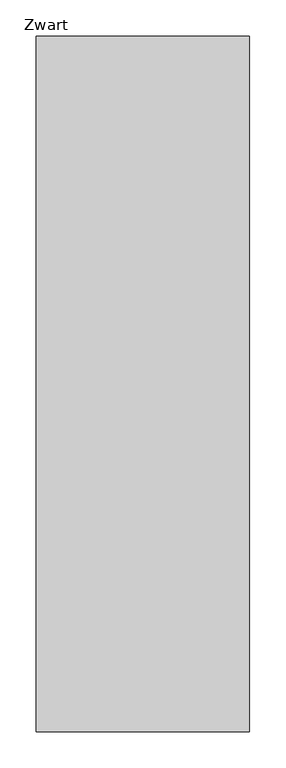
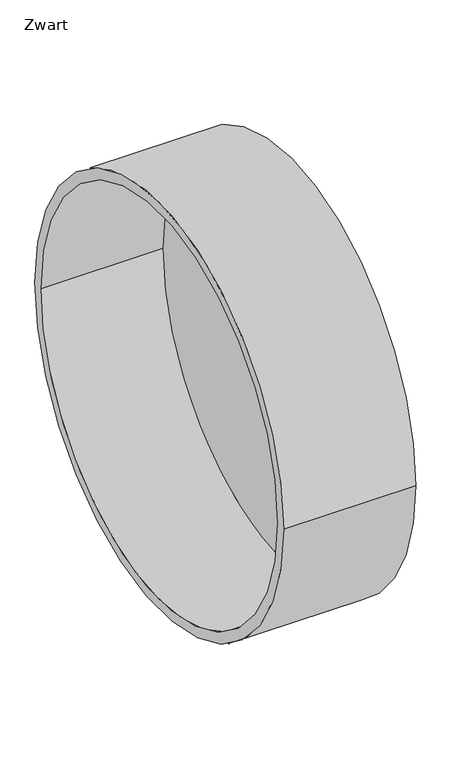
"""IFC4 building model written with IfcOpenShell, lengths in millimetres: pipe fitting geometry, NLRS_52_PIF_UN_Ultra Kyma afsluitkap LV_Dyka : Zwart."""

from ifc_helpers import new_model, si_unit, frame, origin, place, context, project, spatial, polyline, circle_curve, source, transform, mapped, element, save
from ifc_brep_helpers import plane_surface, cylinder_surface, revolved_surface, advanced_brep


def zwart_fea47d13(model_context):
    return source(origin(), model_context, "Body", "AdvancedBrep", [
        advanced_brep(
        [(0.0, -453.0, 0.0), (0.0, 453.0, 0.0), (-270.0, 453.0, 0.0), (-270.0, -453.0, 0.0), (23.0, -477.0, 0.0), (23.0, 477.0, 0.0), (-270.0, -477.0, 0.0), (-270.0, 477.0, 0.0)],
        [
            (0, 1, circle_curve(frame((0.0, 0.0, 0.0), z_axis=(-1.0, 0.0, 0.0), x_axis=(0.0, 1.0, 0.0)), 453.0)),
            (1, 0, circle_curve(frame((0.0, 0.0, 0.0), z_axis=(-1.0, 0.0, 0.0), x_axis=(0.0, 1.0, 0.0)), 453.0)),
            (1, 2),
            (2, 3, circle_curve(frame((-270.0, 0.0, 0.0), z_axis=(-1.0, 0.0, 0.0), x_axis=(0.0, 1.0, 0.0)), 453.0)),
            (3, 0),
            (3, 2, circle_curve(frame((-270.0, 0.0, 0.0), z_axis=(-1.0, 0.0, 0.0), x_axis=(0.0, 1.0, 0.0)), 453.0)),
            (4, 5, circle_curve(frame((23.0, 0.0, 0.0), z_axis=(1.0, 0.0, 0.0), x_axis=(0.0, 1.0, 0.0)), 477.0)),
            (5, 4, circle_curve(frame((23.0, 0.0, 0.0), z_axis=(1.0, 0.0, 0.0), x_axis=(0.0, 1.0, 0.0)), 477.0)),
            (6, 7, circle_curve(frame((-270.0, 0.0, 0.0), z_axis=(-1.0, 0.0, 0.0), x_axis=(0.0, 1.0, 0.0)), 477.0)),
            (7, 6, circle_curve(frame((-270.0, 0.0, 0.0), z_axis=(-1.0, 0.0, 0.0), x_axis=(0.0, 1.0, 0.0)), 477.0)),
            (4, 6),
            (7, 5),
        ],
        [
            plane_surface(frame((0.0, 453.0, 0.0), z_axis=(-1.0, 0.0, 0.0), x_axis=(0.0, 0.0, 1.0))),
            revolved_surface(polyline([(0.0, 453.0, 0.0), (-270.0, 453.0, 0.0)]), (-270.0, 0.0, 0.0), (1.0, 0.0, 0.0)),
            plane_surface(frame((23.0, 477.0, 0.0), z_axis=(1.0, 0.0, 0.0), x_axis=(0.0, 0.0, 1.0))),
            plane_surface(frame((-270.0, 477.0, 0.0), z_axis=(-1.0, 0.0, 0.0), x_axis=(0.0, 0.0, -1.0))),
            cylinder_surface(frame((-270.0, 0.0, 0.0), z_axis=(1.0, 0.0, 0.0), x_axis=(0.0, 1.0, 0.0)), 477.0),
        ],
        [
            (0, [[1, 2]]),
            (1, [[-2, 3, 4, 5]]),
            (1, [[-1, -5, 6, -3]]),
            (2, [[7, 8]]),
            (3, [[9, 10], [-4, -6]]),
            (4, [[-7, 11, -10, 12]]),
            (4, [[-8, -12, -9, -11]]),
        ],
    ),
    ])


if __name__ == "__main__":
    model = new_model("IFC4")
    model_context = context("Model", 3, world=origin())
    ifc_project = project(units=[si_unit("LENGTHUNIT", "METRE", prefix="MILLI")], contexts=[model_context])
    site = spatial("IfcSite", under=ifc_project)
    building = spatial("IfcBuilding", under=site)
    placement = place(None, origin())
    zwart_shape = zwart_fea47d13(model_context)
    element("IfcPipeFitting", 1, ObjectType="NLRS_52_PIF_UN_Ultra Kyma afsluitkap LV_Dyka : Zwart", at=placement, inside=building, context=model_context, shape_type="MappedRepresentation", body=[
        mapped(zwart_shape, transform((0.0, 0.0, 0.0), x_axis=(1.0, 0.0, 0.0), y_axis=(0.0, 1.0, 0.0), z_axis=(0.0, 0.0, 1.0))),
    ])
    save(model, "model.ifc")
